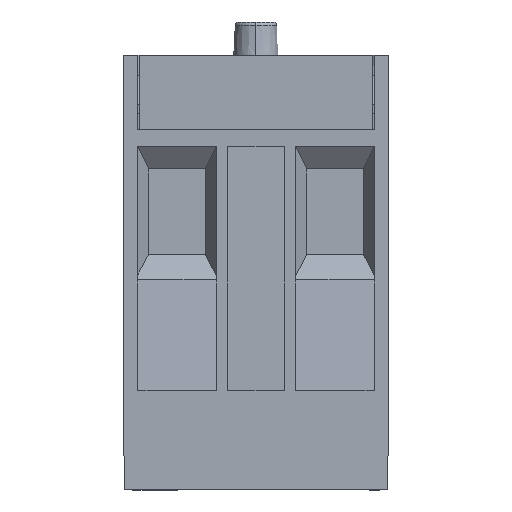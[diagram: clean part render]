
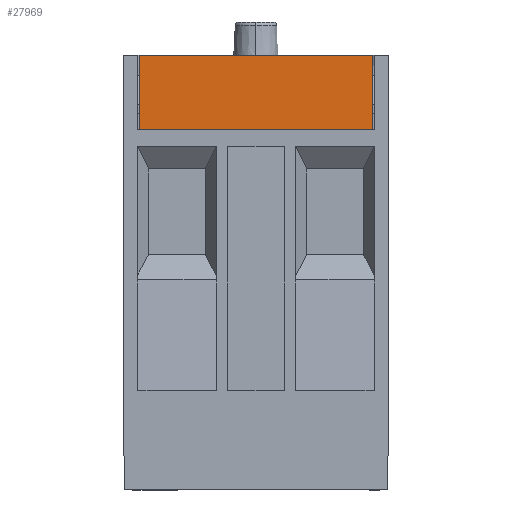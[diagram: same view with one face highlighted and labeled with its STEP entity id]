
A CAD part, front view. The second image highlights one B-rep face of the part: STEP entity #27969.
In plain terms, the highlighted planar face has unit normal (0, -1, 0).
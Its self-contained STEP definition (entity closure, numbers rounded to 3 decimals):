
#387 = DIRECTION ( 'NONE',  ( 0., 0., 1. ) ) ;
#1256 = VERTEX_POINT ( 'NONE', #17533 ) ;
#1265 = CARTESIAN_POINT ( 'NONE',  ( 7., -37.6, 21.7 ) ) ;
#1419 = CARTESIAN_POINT ( 'NONE',  ( 7.05, -37.6, 26.2 ) ) ;
#1894 = CARTESIAN_POINT ( 'NONE',  ( 7., -37.6, 21.7 ) ) ;
#2059 = ORIENTED_EDGE ( 'NONE', *, *, #10040, .F. ) ;
#2344 = EDGE_CURVE ( 'NONE', #8780, #22655, #24014, .T. ) ;
#3592 = DIRECTION ( 'NONE',  ( 1., 0., 0. ) ) ;
#3793 = FACE_OUTER_BOUND ( 'NONE', #6688, .T. ) ;
#4202 = DIRECTION ( 'NONE',  ( -1., 0., 0. ) ) ;
#5019 = CARTESIAN_POINT ( 'NONE',  ( -7.05, -37.6, 21.7 ) ) ;
#5779 = CARTESIAN_POINT ( 'NONE',  ( 7.05, -37.6, 21.7 ) ) ;
#5839 = CARTESIAN_POINT ( 'NONE',  ( 7., -37.6, 26.2 ) ) ;
#6308 = ORIENTED_EDGE ( 'NONE', *, *, #2344, .T. ) ;
#6524 = VECTOR ( 'NONE', #15089, 1000. ) ;
#6688 = EDGE_LOOP ( 'NONE', ( #13727, #2059, #6308, #22698 ) ) ;
#7291 = LINE ( 'NONE', #1894, #18703 ) ;
#8780 = VERTEX_POINT ( 'NONE', #5779 ) ;
#8890 = VECTOR ( 'NONE', #387, 1000. ) ;
#9764 = LINE ( 'NONE', #5839, #15783 ) ;
#10040 = EDGE_CURVE ( 'NONE', #8780, #27212, #7291, .T. ) ;
#10635 = EDGE_CURVE ( 'NONE', #22655, #1256, #9764, .T. ) ;
#12743 = DIRECTION ( 'NONE',  ( -1., 0., 0. ) ) ;
#13727 = ORIENTED_EDGE ( 'NONE', *, *, #24939, .F. ) ;
#15089 = DIRECTION ( 'NONE',  ( 0., 0., 1. ) ) ;
#15783 = VECTOR ( 'NONE', #12743, 1000. ) ;
#17234 = DIRECTION ( 'NONE',  ( 0., -1., 0. ) ) ;
#17533 = CARTESIAN_POINT ( 'NONE',  ( -7.05, -37.6, 26.2 ) ) ;
#18703 = VECTOR ( 'NONE', #4202, 1000. ) ;
#19485 = CARTESIAN_POINT ( 'NONE',  ( 7.05, -37.6, 21.7 ) ) ;
#20256 = LINE ( 'NONE', #5019, #8890 ) ;
#21709 = PLANE ( 'NONE',  #26989 ) ;
#22655 = VERTEX_POINT ( 'NONE', #1419 ) ;
#22698 = ORIENTED_EDGE ( 'NONE', *, *, #10635, .T. ) ;
#24014 = LINE ( 'NONE', #19485, #6524 ) ;
#24939 = EDGE_CURVE ( 'NONE', #27212, #1256, #20256, .T. ) ;
#26989 = AXIS2_PLACEMENT_3D ( 'NONE', #1265, #17234, #3592 ) ;
#27212 = VERTEX_POINT ( 'NONE', #29462 ) ;
#27969 = ADVANCED_FACE ( 'NONE', ( #3793 ), #21709, .T. ) ;
#29462 = CARTESIAN_POINT ( 'NONE',  ( -7.05, -37.6, 21.7 ) ) ;
